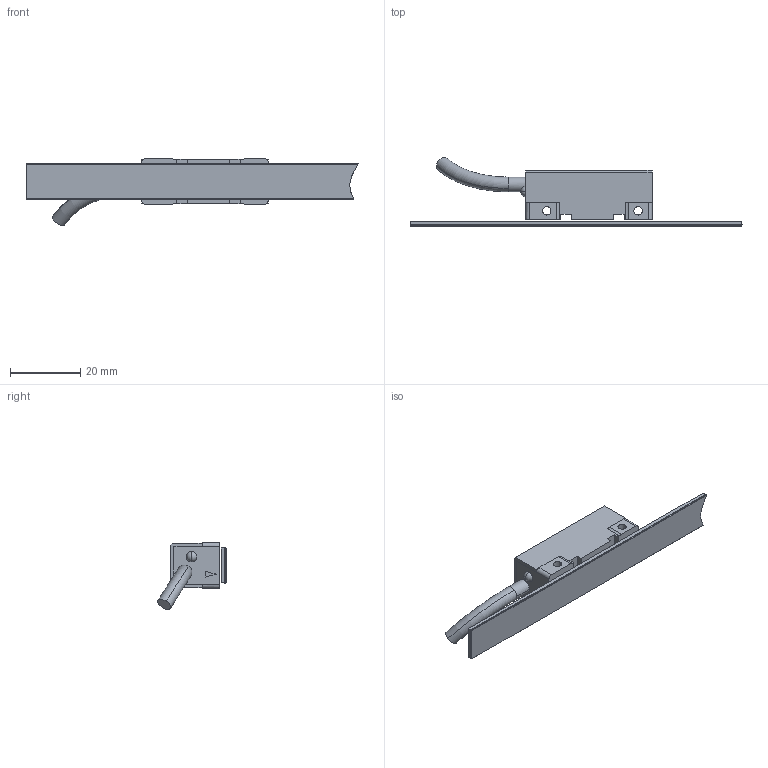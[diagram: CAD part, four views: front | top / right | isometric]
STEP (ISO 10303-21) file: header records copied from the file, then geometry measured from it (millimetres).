
FILE_DESCRIPTION (( 'STEP AP203' ), '1' );
FILE_NAME ('LM13-magnetic-tape-MS10.STEP', '2009-05-19T12:17:45', ( 'RLS D.O.O.' ), ( 'RLS D.O.O.' ), 'SwSTEP 2.0', 'SolidWorks 2009', '' );
FILE_SCHEMA (( 'CONFIG_CONTROL_DESIGN' ));
Length unit declared in the file: millimetre
Products named in the file (3): magnetic-tape-MS10; LM13-redhead; LM13-magnetic-tape-MS10
Assembly tree (2 placements, depth 2):
  LM13-magnetic-tape-MS10
    magnetic-tape-MS10
    LM13-redhead
Bounding box: 94.49 x 19.55 x 18.99 mm (x, y, z)
Volume: 7825.4 mm3; surface area: 5006.4 mm2
Topology: 2 solids, 2 shells, 107 faces, 278 edges, 182 vertices
Faces by surface type: plane 84, cylinder 18, torus 2, sphere 2, bspline 1
Entity records: 3594 total; most frequent: CARTESIAN_POINT 625, ORIENTED_EDGE 556, DIRECTION 545, EDGE_CURVE 278, VECTOR 221, LINE 221, VERTEX_POINT 182, AXIS2_PLACEMENT_3D 162
